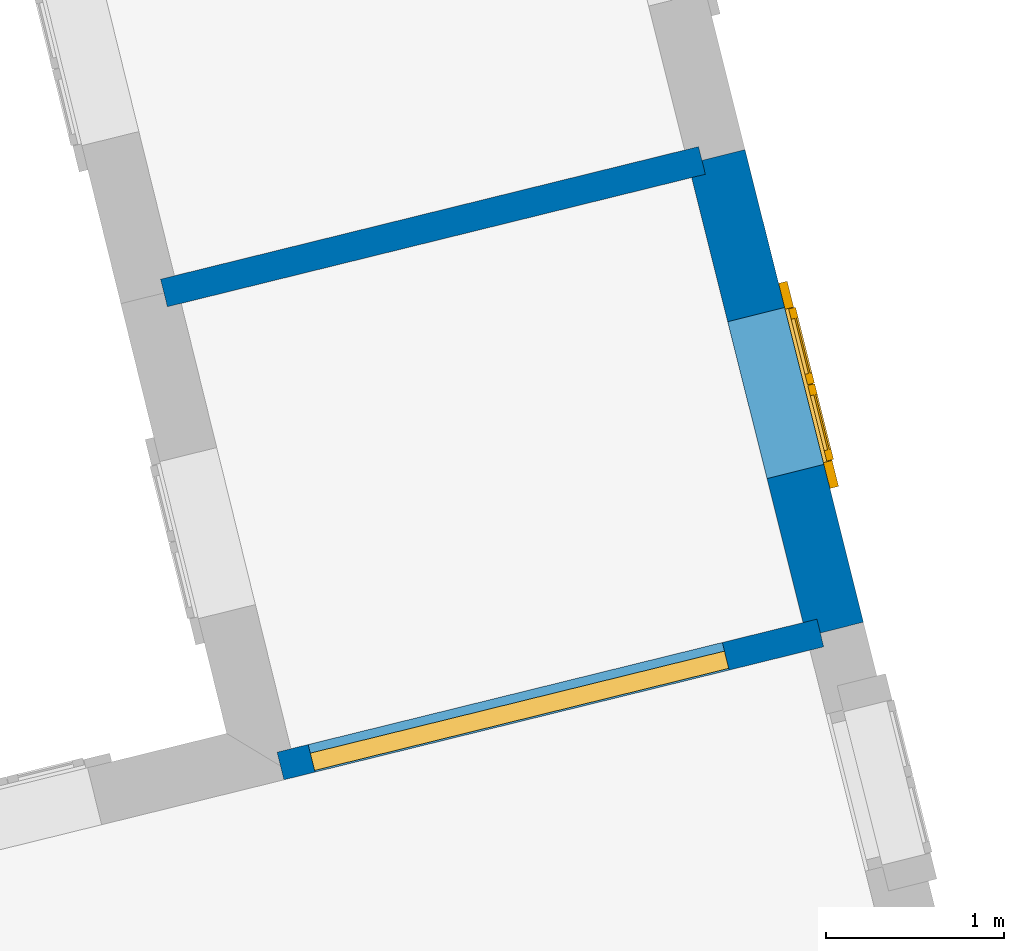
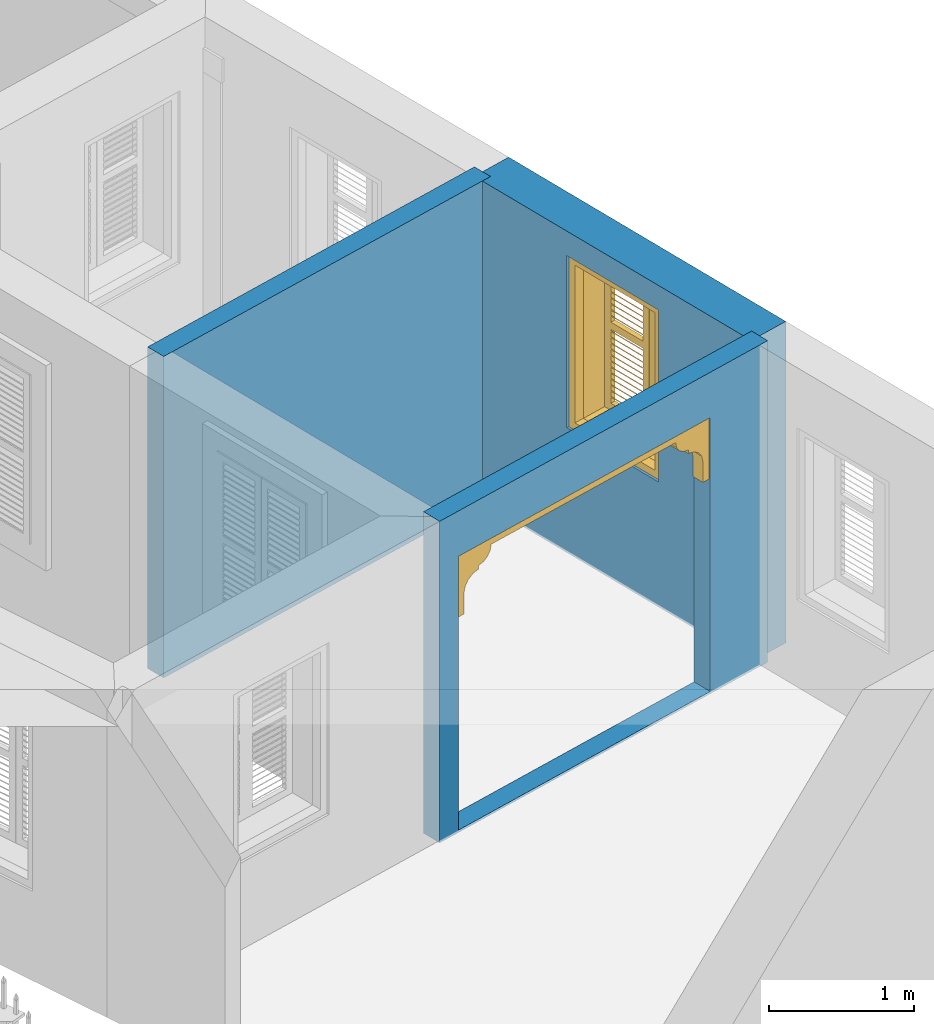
# One storey, part 4 of 8: 3 walls, 1 door, 1 window, 2 openings.
"""IFC4 building model written with IfcOpenShell, lengths in metres."""

import ifcopenshell
import ifcopenshell.guid

model = None  # the IFC model being written
_history = None  # IfcOwnerHistory: only IFC2X3 demands one
_inside = {}  # id of a spatial element -> (the spatial element, [elements in it])
_under = {}  # id of a project, library or spatial element -> (it, [spatial elements below it])
_declared = {}  # id of a project -> (the project, [libraries it declares])
_typed = {}  # id of a type object -> (the type object, [elements of that type])
_made_of = {}  # id of a material, layer set ... -> (it, [elements and type objects made of it])


def new_model(schema):
    """Start an empty IFC model of exactly this schema.

    Asked for "IFC4X3", IfcOpenShell would pick the latest addendum, in which some entities
    have other attributes; the version numbers below select the first issue.
    IFC2X3 requires an IfcOwnerHistory on every rooted entity: one is made here for all.
    """
    global model, _history
    if schema == "IFC4X3":
        model = ifcopenshell.file(schema_version=(4, 3, 0, 0))
    else:
        model = ifcopenshell.file(schema=schema)
    _inside.clear()
    _under.clear()
    _declared.clear()
    _typed.clear()
    _made_of.clear()
    _history = None
    if model.schema == "IFC2X3":
        org = make("IfcOrganization", Name="unknown")
        user = make(
            "IfcPersonAndOrganization",
            ThePerson=make("IfcPerson", FamilyName="unknown"),
            TheOrganization=org,
        )
        app = make(
            "IfcApplication",
            ApplicationDeveloper=org,
            Version="unknown",
            ApplicationFullName="unknown",
            ApplicationIdentifier="unknown",
        )
        _history = make(
            "IfcOwnerHistory",
            OwningUser=user,
            OwningApplication=app,
            ChangeAction="ADDED",
            CreationDate=0,
        )
    return model


def make(cls, **values):
    """One entity of the class cls with the attributes given. An attribute that is None is left unset."""
    return model.create_entity(
        cls, **{name: value for name, value in values.items() if value is not None}
    )


def rooted(cls, **values):
    """An entity with a GlobalId (a new one), such as an element, a storey or a relation."""
    return make(cls, GlobalId=ifcopenshell.guid.new(), OwnerHistory=_history, **values)


def si_unit(unit_type, name, prefix=None):
    """IfcSIUnit, for example si_unit("LENGTHUNIT", "METRE", prefix="MILLI")."""
    return make("IfcSIUnit", UnitType=unit_type, Prefix=prefix, Name=name)


def assignment(units):
    """IfcUnitAssignment: the units of a project."""
    return None if units is None else make("IfcUnitAssignment", Units=units)


def point(xyz):
    """IfcCartesianPoint."""
    return None if xyz is None else make("IfcCartesianPoint", Coordinates=xyz)


def direction(xyz):
    """IfcDirection."""
    return None if xyz is None else make("IfcDirection", DirectionRatios=xyz)


def frame(location, z_axis=None, x_axis=None):
    """IfcAxis2Placement3D, a coordinate frame: its origin and axes. An axis left out is left unset."""
    return make(
        "IfcAxis2Placement3D",
        Location=point(location),
        Axis=direction(z_axis),
        RefDirection=direction(x_axis),
    )


def origin():
    """The frame at (0, 0, 0) with its axes left unset."""
    return frame((0.0, 0.0, 0.0))


def origin_with_axes():
    """The frame at (0, 0, 0) with the z axis (0, 0, 1) and the x axis (1, 0, 0) written out."""
    return frame((0.0, 0.0, 0.0), z_axis=(0.0, 0.0, 1.0), x_axis=(1.0, 0.0, 0.0))


def place(relative_to, where):
    """IfcLocalPlacement: puts the frame where relative to a parent placement (None: the world)."""
    return make(
        "IfcLocalPlacement", PlacementRelTo=relative_to, RelativePlacement=where
    )


def context(
    kind, dimensions, precision=None, world=None, true_north=None, identifier=None
):
    """IfcGeometricRepresentationContext, for example the 3D "Model" context."""
    return make(
        "IfcGeometricRepresentationContext",
        ContextIdentifier=identifier,
        ContextType=kind,
        CoordinateSpaceDimension=dimensions,
        Precision=precision,
        WorldCoordinateSystem=world,
        TrueNorth=true_north,
    )


def subcontext(parent, identifier, kind, view, scale=None):
    """IfcGeometricRepresentationSubContext, for example "Body" below "Model"."""
    return make(
        "IfcGeometricRepresentationSubContext",
        ContextIdentifier=identifier,
        ContextType=kind,
        ParentContext=parent,
        TargetScale=scale,
        TargetView=view,
    )


def project(units=None, contexts=None):
    """IfcProject with its units and contexts."""
    return rooted(
        "IfcProject",
        Name="project",
        RepresentationContexts=contexts,
        UnitsInContext=assignment(units),
    )


def spatial(cls, under=None, at=None, **own):
    """A site, building, storey or space (cls), placed at a placement, below another one or the project."""
    s = rooted(cls, ObjectPlacement=at, **own)
    if under is not None:
        _under.setdefault(under.id(), (under, []))[1].append(s)
    return s


def polyline(points):
    """IfcPolyline through the points."""
    return make("IfcPolyline", Points=[point(p) for p in points])


def outline(outer, holes=None, kind="AREA"):
    """IfcArbitraryClosedProfileDef: a profile drawn as a closed curve; with holes, ...WithVoids."""
    if holes is None:
        return make("IfcArbitraryClosedProfileDef", ProfileType=kind, OuterCurve=outer)
    return make(
        "IfcArbitraryProfileDefWithVoids",
        ProfileType=kind,
        OuterCurve=outer,
        InnerCurves=holes,
    )


def extrude(swept, where, along, depth):
    """IfcExtrudedAreaSolid: the profile swept, set in the frame where, extruded along a direction by depth."""
    return make(
        "IfcExtrudedAreaSolid",
        SweptArea=swept,
        Position=where,
        ExtrudedDirection=direction(along),
        Depth=depth,
    )


def faces_of(points, faces, orient=None, outer=None):
    """IfcFace entities. A face is a list of loops; a loop is a list of indices into points, from 0.

    orient and outer hold one flag for each loop. By default every Orientation is true, the
    first loop of a face is its IfcFaceOuterBound and the others are IfcFaceBound.
    """
    made = []
    for i, loops in enumerate(faces):
        bounds = []
        for j, loop in enumerate(loops):
            is_outer = j == 0 if outer is None else outer[i][j]
            bounds.append(
                make(
                    "IfcFaceOuterBound" if is_outer else "IfcFaceBound",
                    Bound=make("IfcPolyLoop", Polygon=[points[k] for k in loop]),
                    Orientation=True if orient is None else orient[i][j],
                )
            )
        made.append(make("IfcFace", Bounds=bounds))
    return made


def faceted_brep(points, faces, orient=None, outer=None, voids=None):
    """IfcFacetedBrep: a solid bounded by flat faces; with voids (closed shells), ...WithVoids."""
    shared = [point(p) for p in points]
    hull = make("IfcClosedShell", CfsFaces=faces_of(shared, faces, orient, outer))
    if voids is None:
        return make("IfcFacetedBrep", Outer=hull)
    return make(
        "IfcFacetedBrepWithVoids",
        Outer=hull,
        Voids=[
            make(cls, CfsFaces=faces_of(shared, fs, o, b)) for cls, fs, o, b in voids
        ],
    )


def shape(context_of_items, identifier, shape_type, items):
    """IfcShapeRepresentation: the items that make up one representation, for example the "Body"."""
    return make(
        "IfcShapeRepresentation",
        ContextOfItems=context_of_items,
        RepresentationIdentifier=identifier,
        RepresentationType=shape_type,
        Items=items,
    )


def source(mapping_origin, context_of_items, identifier, shape_type, items):
    """IfcRepresentationMap: a shape defined once, which mapped items show again and again."""
    return make(
        "IfcRepresentationMap",
        MappingOrigin=mapping_origin,
        MappedRepresentation=shape(context_of_items, identifier, shape_type, items),
    )


def transform(
    local_origin,
    x_axis=None,
    y_axis=None,
    z_axis=None,
    scale=None,
    scale2=None,
    scale3=None,
    uniform=True,
):
    """IfcCartesianTransformationOperator3D, or its non-uniform kind. x_axis, y_axis, z_axis: its Axis1, 2, 3."""
    if uniform:
        return make(
            "IfcCartesianTransformationOperator3D",
            Axis1=direction(x_axis),
            Axis2=direction(y_axis),
            LocalOrigin=point(local_origin),
            Scale=scale,
            Axis3=direction(z_axis),
        )
    return make(
        "IfcCartesianTransformationOperator3DnonUniform",
        Axis1=direction(x_axis),
        Axis2=direction(y_axis),
        LocalOrigin=point(local_origin),
        Scale=scale,
        Axis3=direction(z_axis),
        Scale2=scale2,
        Scale3=scale3,
    )


def mapped(mapping_source, mapping_target):
    """IfcMappedItem: shows the shape of a source again, moved by a transform."""
    return make(
        "IfcMappedItem", MappingSource=mapping_source, MappingTarget=mapping_target
    )


def material(Name=None, Category=None):
    """IfcMaterial."""
    return make("IfcMaterial", Name=Name, Category=Category)


def layer(
    of_material, thickness, ventilated=None, Name=None, Category=None, Priority=None
):
    """IfcMaterialLayer: one layer of a wall or slab, of a material (None: an air gap)."""
    return make(
        "IfcMaterialLayer",
        Material=of_material,
        LayerThickness=thickness,
        IsVentilated=ventilated,
        Name=Name,
        Category=Category,
        Priority=Priority,
    )


def layer_set(layers, Name=None):
    """IfcMaterialLayerSet."""
    return make("IfcMaterialLayerSet", MaterialLayers=layers, LayerSetName=Name)


def layer_usage(for_layer_set, set_direction, sense, offset, extent=None):
    """IfcMaterialLayerSetUsage: how a layer set lies in its element."""
    return make(
        "IfcMaterialLayerSetUsage",
        ForLayerSet=for_layer_set,
        LayerSetDirection=set_direction,
        DirectionSense=sense,
        OffsetFromReferenceLine=offset,
        ReferenceExtent=extent,
    )


def made_of(thing, what):
    """Note that an element or type object is made of a material, layer set ...; save() writes the relation."""
    if what is not None:
        _made_of.setdefault(what.id(), (what, []))[1].append(thing)
    return thing


def type_object(cls, material=None, **own):
    """A type object (cls), such as IfcWallType, which elements share."""
    return made_of(rooted(cls, **own), material)


def type_shapes(of_type, sources):
    """Give a type object the sources (RepresentationMaps) that its elements show as mapped items."""
    of_type.RepresentationMaps = sources


def element(
    cls,
    number,
    at=None,
    inside=None,
    cuts=None,
    type_object=None,
    material=None,
    context=None,
    identifier="Body",
    shape_type=None,
    held_by="IfcProductDefinitionShape",
    body=None,
    shapes=None,
    **own,
):
    """One element of the class cls, such as IfcWall. Its Tag is "e" and its number.

    at: its placement. inside: the storey or other place that contains it. cuts: it is an
    opening in that element (IfcRelVoidsElement). A single representation is given by context,
    identifier, shape_type and body (its items); several are given by shapes. held_by: the class
    of the entity that holds the representations. save() writes the other relations.
    """
    e = rooted(cls, Tag="e%d" % number, ObjectPlacement=at, **own)
    if body is not None:
        shapes = [shape(context, identifier, shape_type, body)]
    if shapes is not None:
        e.Representation = make(held_by, Representations=shapes)
    if inside is not None:
        _inside.setdefault(inside.id(), (inside, []))[1].append(e)
    if cuts is not None:
        rooted(
            "IfcRelVoidsElement", RelatingBuildingElement=cuts, RelatedOpeningElement=e
        )
    if type_object is not None:
        _typed.setdefault(type_object.id(), (type_object, []))[1].append(e)
    return made_of(e, material)


def fill(opening, filler):
    """IfcRelFillsElement: the door or window that sits in an opening."""
    return rooted(
        "IfcRelFillsElement",
        RelatingOpeningElement=opening,
        RelatedBuildingElement=filler,
    )


def aggregate(whole, parts):
    """IfcRelAggregates: a whole, such as a stair, and the parts it consists of."""
    return rooted("IfcRelAggregates", RelatingObject=whole, RelatedObjects=parts)


def save(model, path):
    """Write the relations noted so far, then the file.

    IfcRelAggregates (storeys below a building ...), IfcRelContainedInSpatialStructure (elements
    in a storey), IfcRelDefinesByType, IfcRelAssociatesMaterial and IfcRelDeclares: one each for
    every whole, place, type object, material and project.
    """
    for whole, parts in _under.values():
        aggregate(whole, parts)
    for where, things in _inside.values():
        rooted(
            "IfcRelContainedInSpatialStructure",
            RelatedElements=things,
            RelatingStructure=where,
        )
    for kind, things in _typed.values():
        rooted("IfcRelDefinesByType", RelatedObjects=things, RelatingType=kind)
    for what, things in _made_of.values():
        rooted("IfcRelAssociatesMaterial", RelatedObjects=things, RelatingMaterial=what)
    for by, libraries in _declared.values():
        rooted("IfcRelDeclares", RelatingContext=by, RelatedDefinitions=libraries)
    model.write(path)


model = new_model("IFC4")

# Units and contexts
model_context = context("Model", 3, world=origin_with_axes())
body_context = subcontext(model_context, "Body", "Model", "MODEL_VIEW")
ifc_project = project(units=[si_unit("PLANEANGLEUNIT", "RADIAN"), si_unit("MASSUNIT", "GRAM", prefix="KILO"), si_unit("FORCEUNIT", "NEWTON", prefix="KILO"), si_unit("LENGTHUNIT", "METRE"), si_unit("AREAUNIT", "SQUARE_METRE"), si_unit("VOLUMEUNIT", "CUBIC_METRE")], contexts=[model_context, model_context])

# Site, building, storey
site_placement = place(None, origin_with_axes())
site = spatial("IfcSite", under=ifc_project, at=site_placement, Name="Site plot-1", CompositionType="ELEMENT")
building_placement = place(None, origin_with_axes())
building = spatial("IfcBuilding", under=site, at=building_placement, Name="Building plot-1", CompositionType="ELEMENT")
storey_placement = place(None, frame((0.0, 0.0, 2.7), z_axis=(0.0, 0.0, 1.0), x_axis=(1.0, 0.0, 0.0)))
storey = spatial("IfcBuildingStorey", under=building, at=storey_placement, Name="plot-1 1", CompositionType="ELEMENT", Elevation=2.7)

# Wall, opening, window
ifc_material_1 = material(Name="Masonry")
ifc_layer_1 = layer(ifc_material_1, 0.33, ventilated=False)
ifc_layer_set_1 = layer_set([ifc_layer_1], Name="exterior_0.08_0.25")
ifc_layer_usage_1 = layer_usage(ifc_layer_set_1, "AXIS2", "POSITIVE", -0.25)
wall_type_1 = type_object("IfcWallType", Name="exterior_0.08_0.25", PredefinedType="SOLIDWALL", material=ifc_layer_set_1)
wall_1_placement = place(storey_placement, frame((6.19095016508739, 19.3209104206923, 0.0), z_axis=(0.0, 0.0, 1.0), x_axis=(-0.242972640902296, 0.970033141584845, 0.0)))
wall_1 = element("IfcWall", 1, at=wall_1_placement, inside=storey, type_object=wall_type_1, material=ifc_layer_usage_1, Name="exterior", context=body_context, shape_type="SweptSolid", body=[
    extrude(outline(polyline([(1.64770702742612e-16, 0.0800000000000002), (-4.28781124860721e-16, -0.25), (2.74091515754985, -0.25), (2.74091515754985, 0.0800000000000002), (1.64770702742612e-16, 0.0800000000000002)])), origin_with_axes(), (0.0, 0.0, 1.0), 2.7),
])
opening_1_placement = place(wall_1_placement, frame((0.915457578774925, 0.0, 1.05)))
opening_1 = element("IfcOpeningElement", 2, at=opening_1_placement, cuts=wall_1, Name="My Opening", ObjectType="Opening", context=body_context, shape_type="SweptSolid", body=[
    extrude(outline(polyline([(0.0, -0.27), (0.909999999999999, -0.269999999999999), (0.910000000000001, 1.1), (2.1094237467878e-15, 1.1), (0.0, -0.27)])), origin_with_axes(), (0.0, 0.0, 1.0), 1.445),
])
window_type = type_object("IfcWindowType", Name="shuttered_shorter", PartitioningType="DOUBLE_PANEL_HORIZONTAL", PredefinedType="NOTDEFINED")
shared_shape_1 = source(origin(), body_context, "Body", "Brep", [
    faceted_brep([(0.393, 0.0, 0.622), (0.074, 0.0, 0.622), (0.074, 0.0, 0.632), (0.393, 0.0, 0.632), (0.074, -0.04, 0.592), (0.393, -0.04, 0.592), (0.393, -0.04, 0.582), (0.074, -0.04, 0.582), (0.517, 0.0, 0.682), (0.836, 0.0, 0.682), (0.836, 0.0, 0.672), (0.517, 0.0, 0.672), (0.517, -0.04, 0.642), (0.836, -0.04, 0.642), (0.836, -0.04, 0.632), (0.517, -0.04, 0.632), (0.517, 0.0, 0.632), (0.836, 0.0, 0.632), (0.836, 0.0, 0.622), (0.517, 0.0, 0.622), (0.517, -0.04, 0.592), (0.836, -0.04, 0.592), (0.836, -0.04, 0.582), (0.517, -0.04, 0.582), (0.517, 0.0, 0.232), (0.836, 0.0, 0.232), (0.836, 0.0, 0.222), (0.517, 0.0, 0.222), (0.517, -0.04, 0.192), (0.836, -0.04, 0.192), (0.836, -0.04, 0.182), (0.517, -0.04, 0.182), (0.517, 0.0, 0.532), (0.836, 0.0, 0.532), (0.836, 0.0, 0.522), (0.517, 0.0, 0.522), (0.517, -0.04, 0.492), (0.836, -0.04, 0.492), (0.836, -0.04, 0.482), (0.517, -0.04, 0.482), (0.517, 0.0, 0.482), (0.836, 0.0, 0.482), (0.836, 0.0, 0.472), (0.517, 0.0, 0.472), (0.517, -0.04, 0.442), (0.836, -0.04, 0.442), (0.836, -0.04, 0.432), (0.517, -0.04, 0.432), (0.517, 0.0, 0.582), (0.836, 0.0, 0.582), (0.836, 0.0, 0.572), (0.517, 0.0, 0.572), (0.517, -0.04, 0.542), (0.836, -0.04, 0.542), (0.836, -0.04, 0.532), (0.517, -0.04, 0.532), (0.517, 0.0, 0.182), (0.836, 0.0, 0.182), (0.836, 0.0, 0.172), (0.517, 0.0, 0.172), (0.517, -0.04, 0.142), (0.836, -0.04, 0.142), (0.836, -0.04, 0.132), (0.517, -0.04, 0.132), (0.517, 0.0, 0.382), (0.836, 0.0, 0.382), (0.836, 0.0, 0.372), (0.517, 0.0, 0.372), (0.517, -0.04, 0.342), (0.836, -0.04, 0.342), (0.836, -0.04, 0.332), (0.517, -0.04, 0.332), (0.517, 0.0, 0.432), (0.836, 0.0, 0.432), (0.836, 0.0, 0.422), (0.517, 0.0, 0.422), (0.517, -0.04, 0.392), (0.836, -0.04, 0.392), (0.836, -0.04, 0.382), (0.517, -0.04, 0.382), (0.517, 0.0, 0.132), (0.836, 0.0, 0.132), (0.836, 0.0, 0.122), (0.517, 0.0, 0.122), (0.517, -0.04, 0.092), (0.836, -0.04, 0.092), (0.836, -0.04, 0.082), (0.517, -0.04, 0.082), (0.517, 0.0, 0.282), (0.836, 0.0, 0.282), (0.836, 0.0, 0.272), (0.517, 0.0, 0.272), (0.517, -0.04, 0.242), (0.836, -0.04, 0.242), (0.836, -0.04, 0.232), (0.517, -0.04, 0.232), (0.517, 0.0, 0.332), (0.836, 0.0, 0.332), (0.836, 0.0, 0.322), (0.517, 0.0, 0.322), (0.517, -0.04, 0.292), (0.836, -0.04, 0.292), (0.836, -0.04, 0.282), (0.517, -0.04, 0.282), (0.517, 0.0, 1.362667), (0.836, 0.0, 1.362667), (0.836, 0.0, 1.352667), (0.517, 0.0, 1.352667), (0.517, -0.04, 1.322667), (0.836, -0.04, 1.322667), (0.836, -0.04, 1.312667), (0.517, -0.04, 1.312667), (0.517, 0.0, 1.312667), (0.836, 0.0, 1.312667), (0.836, 0.0, 1.302667), (0.517, 0.0, 1.302667), (0.517, -0.04, 1.272667), (0.836, -0.04, 1.272667), (0.836, -0.04, 1.262667), (0.517, -0.04, 1.262667), (0.517, 0.0, 0.912667), (0.836, 0.0, 0.912667), (0.836, 0.0, 0.902667), (0.517, 0.0, 0.902667), (0.517, -0.04, 0.872667), (0.836, -0.04, 0.872667), (0.836, -0.04, 0.862667), (0.517, -0.04, 0.862667), (0.517, 0.0, 1.212667), (0.836, 0.0, 1.212667), (0.836, 0.0, 1.202667), (0.517, 0.0, 1.202667), (0.517, -0.04, 1.172667), (0.836, -0.04, 1.172667), (0.836, -0.04, 1.162667), (0.517, -0.04, 1.162667), (0.517, 0.0, 1.162667), (0.836, 0.0, 1.162667), (0.836, 0.0, 1.152667), (0.517, 0.0, 1.152667), (0.517, -0.04, 1.122667), (0.836, -0.04, 1.122667), (0.836, -0.04, 1.112667), (0.517, -0.04, 1.112667), (0.517, 0.0, 1.262667), (0.836, 0.0, 1.262667), (0.836, 0.0, 1.252667), (0.517, 0.0, 1.252667), (0.517, -0.04, 1.222667), (0.836, -0.04, 1.222667), (0.836, -0.04, 1.212667), (0.517, -0.04, 1.212667), (0.517, 0.0, 0.862667), (0.836, 0.0, 0.862667), (0.836, 0.0, 0.852667), (0.517, 0.0, 0.852667), (0.517, -0.04, 0.822667), (0.836, -0.04, 0.822667), (0.836, -0.04, 0.812667), (0.517, -0.04, 0.812667), (0.517, 0.0, 1.062667), (0.836, 0.0, 1.062667), (0.836, 0.0, 1.052667), (0.517, 0.0, 1.052667), (0.517, -0.04, 1.022667), (0.836, -0.04, 1.022667), (0.836, -0.04, 1.012667), (0.517, -0.04, 1.012667), (0.517, 0.0, 1.112667), (0.836, 0.0, 1.112667), (0.836, 0.0, 1.102667), (0.517, 0.0, 1.102667), (0.517, -0.04, 1.072667), (0.836, -0.04, 1.072667), (0.836, -0.04, 1.062667), (0.517, -0.04, 1.062667), (0.517, 0.0, 0.812667), (0.836, 0.0, 0.812667), (0.836, 0.0, 0.802667), (0.517, 0.0, 0.802667), (0.517, -0.04, 0.772667), (0.836, -0.04, 0.772667), (0.836, -0.04, 0.762667), (0.517, -0.04, 0.762667), (0.517, 0.0, 0.962667), (0.836, 0.0, 0.962667), (0.836, 0.0, 0.952667), (0.517, 0.0, 0.952667), (0.517, -0.04, 0.922667), (0.836, -0.04, 0.922667), (0.836, -0.04, 0.912667), (0.517, -0.04, 0.912667), (0.517, 0.0, 1.012667), (0.836, 0.0, 1.012667), (0.836, 0.0, 1.002667), (0.517, 0.0, 1.002667), (0.517, -0.04, 0.972667), (0.836, -0.04, 0.972667), (0.836, -0.04, 0.962667), (0.517, -0.04, 0.962667), (0.074, 0.0, 0.682), (0.393, 0.0, 0.682), (0.393, 0.0, 0.672), (0.074, 0.0, 0.672), (0.074, -0.04, 0.642), (0.393, -0.04, 0.642), (0.393, -0.04, 0.632), (0.074, -0.04, 0.632), (0.074, 0.0, 0.232), (0.393, 0.0, 0.232), (0.393, 0.0, 0.222), (0.074, 0.0, 0.222), (0.074, -0.04, 0.192), (0.393, -0.04, 0.192), (0.393, -0.04, 0.182), (0.074, -0.04, 0.182), (0.074, 0.0, 0.532), (0.393, 0.0, 0.532), (0.393, 0.0, 0.522), (0.074, 0.0, 0.522), (0.074, -0.04, 0.492), (0.393, -0.04, 0.492), (0.393, -0.04, 0.482), (0.074, -0.04, 0.482), (0.074, 0.0, 0.482), (0.393, 0.0, 0.482), (0.393, 0.0, 0.472), (0.074, 0.0, 0.472), (0.074, -0.04, 0.442), (0.393, -0.04, 0.442), (0.393, -0.04, 0.432), (0.074, -0.04, 0.432), (0.074, 0.0, 0.582), (0.393, 0.0, 0.582), (0.393, 0.0, 0.572), (0.074, 0.0, 0.572), (0.074, -0.04, 0.542), (0.393, -0.04, 0.542), (0.393, -0.04, 0.532), (0.074, -0.04, 0.532), (0.074, 0.0, 0.182), (0.393, 0.0, 0.182), (0.393, 0.0, 0.172), (0.074, 0.0, 0.172), (0.074, -0.04, 0.142), (0.393, -0.04, 0.142), (0.393, -0.04, 0.132), (0.074, -0.04, 0.132), (0.074, 0.0, 0.382), (0.393, 0.0, 0.382), (0.393, 0.0, 0.372), (0.074, 0.0, 0.372), (0.074, -0.04, 0.342), (0.393, -0.04, 0.342), (0.393, -0.04, 0.332), (0.074, -0.04, 0.332), (0.074, 0.0, 0.432), (0.393, 0.0, 0.432), (0.393, 0.0, 0.422), (0.074, 0.0, 0.422), (0.074, -0.04, 0.392), (0.393, -0.04, 0.392), (0.393, -0.04, 0.382), (0.074, -0.04, 0.382), (0.074, 0.0, 0.132), (0.393, 0.0, 0.132), (0.393, 0.0, 0.122), (0.074, 0.0, 0.122), (0.074, -0.04, 0.092), (0.393, -0.04, 0.092), (0.393, -0.04, 0.082), (0.074, -0.04, 0.082), (0.074, 0.0, 0.282), (0.393, 0.0, 0.282), (0.393, 0.0, 0.272), (0.074, 0.0, 0.272), (0.074, -0.04, 0.242), (0.393, -0.04, 0.242), (0.393, -0.04, 0.232), (0.074, -0.04, 0.232), (0.074, 0.0, 0.332), (0.393, 0.0, 0.332), (0.393, 0.0, 0.322), (0.074, 0.0, 0.322), (0.074, -0.04, 0.292), (0.393, -0.04, 0.292), (0.393, -0.04, 0.282), (0.074, -0.04, 0.282), (0.074, 0.0, 1.362667), (0.393, 0.0, 1.362667), (0.393, 0.0, 1.352667), (0.074, 0.0, 1.352667), (0.074, -0.04, 1.322667), (0.393, -0.04, 1.322667), (0.393, -0.04, 1.312667), (0.074, -0.04, 1.312667), (0.074, 0.0, 1.312667), (0.393, 0.0, 1.312667), (0.393, 0.0, 1.302667), (0.074, 0.0, 1.302667), (0.074, -0.04, 1.272667), (0.393, -0.04, 1.272667), (0.393, -0.04, 1.262667), (0.074, -0.04, 1.262667), (0.074, 0.0, 0.912667), (0.393, 0.0, 0.912667), (0.393, 0.0, 0.902667), (0.074, 0.0, 0.902667), (0.074, -0.04, 0.872667), (0.393, -0.04, 0.872667), (0.393, -0.04, 0.862667), (0.074, -0.04, 0.862667), (0.074, 0.0, 1.212667), (0.393, 0.0, 1.212667), (0.393, 0.0, 1.202667), (0.074, 0.0, 1.202667), (0.074, -0.04, 1.172667), (0.393, -0.04, 1.172667), (0.393, -0.04, 1.162667), (0.074, -0.04, 1.162667), (0.074, 0.0, 1.162667), (0.393, 0.0, 1.162667), (0.393, 0.0, 1.152667), (0.074, 0.0, 1.152667), (0.074, -0.04, 1.122667), (0.393, -0.04, 1.122667), (0.393, -0.04, 1.112667), (0.074, -0.04, 1.112667), (0.074, 0.0, 1.262667), (0.393, 0.0, 1.262667), (0.393, 0.0, 1.252667), (0.074, 0.0, 1.252667), (0.074, -0.04, 1.222667), (0.393, -0.04, 1.222667), (0.393, -0.04, 1.212667), (0.074, -0.04, 1.212667), (0.074, 0.0, 0.862667), (0.393, 0.0, 0.862667), (0.393, 0.0, 0.852667), (0.074, 0.0, 0.852667), (0.074, -0.04, 0.822667), (0.393, -0.04, 0.822667), (0.393, -0.04, 0.812667), (0.074, -0.04, 0.812667), (0.074, 0.0, 1.062667), (0.393, 0.0, 1.062667), (0.393, 0.0, 1.052667), (0.074, 0.0, 1.052667), (0.074, -0.04, 1.022667), (0.393, -0.04, 1.022667), (0.393, -0.04, 1.012667), (0.074, -0.04, 1.012667), (0.074, 0.0, 1.112667), (0.393, 0.0, 1.112667), (0.393, 0.0, 1.102667), (0.074, 0.0, 1.102667), (0.074, -0.04, 1.072667), (0.393, -0.04, 1.072667), (0.393, -0.04, 1.062667), (0.074, -0.04, 1.062667), (0.074, 0.0, 0.812667), (0.393, 0.0, 0.812667), (0.393, 0.0, 0.802667), (0.074, 0.0, 0.802667), (0.074, -0.04, 0.772667), (0.393, -0.04, 0.772667), (0.393, -0.04, 0.762667), (0.074, -0.04, 0.762667), (0.074, 0.0, 0.962667), (0.393, 0.0, 0.962667), (0.393, 0.0, 0.952667), (0.074, 0.0, 0.952667), (0.074, -0.04, 0.922667), (0.393, -0.04, 0.922667), (0.393, -0.04, 0.912667), (0.074, -0.04, 0.912667), (0.074, 0.0, 1.012667), (0.393, 0.0, 1.012667), (0.393, 0.0, 1.002667), (0.074, 0.0, 1.002667), (0.074, -0.04, 0.972667), (0.393, -0.04, 0.972667), (0.393, -0.04, 0.962667), (0.074, -0.04, 0.962667), (0.517, -0.04, 0.072), (0.457, -0.04, 0.012), (0.896, -0.04, 0.012), (0.836, -0.04, 0.072), (0.457, -0.04, 0.692667), (0.517, -0.04, 0.692667), (0.457, 0.0, 0.012), (0.896, 0.0, 0.012), (0.836, -0.04, 0.692667), (0.896, -0.04, 0.692667), (0.836, 0.0, 0.072), (0.517, 0.0, 0.072), (0.457, 0.0, 0.692667), (0.517, 0.0, 0.692667), (0.517, -0.04, 0.752666), (0.457, -0.04, 0.752666), (0.896, 0.0, 0.692667), (0.836, 0.0, 0.692667), (0.836, -0.04, 0.752666), (0.896, -0.04, 0.752666), (0.457, 0.0, 0.752666), (0.457, -0.04, 1.433333), (0.517, -0.04, 1.373333), (0.896, 0.0, 0.752666), (0.836, -0.04, 1.373333), (0.896, -0.04, 1.433333), (0.457, 0.0, 1.433333), (0.517, 0.0, 0.752666), (0.836, 0.0, 0.752666), (0.517, 0.0, 1.373333), (0.896, 0.0, 1.433333), (0.836, 0.0, 1.373333), (0.074, -0.04, 0.072), (0.014, -0.04, 0.012), (0.453, -0.04, 0.012), (0.393, -0.04, 0.072), (0.014, -0.04, 0.692667), (0.074, -0.04, 0.692667), (0.014, 0.0, 0.012), (0.453, 0.0, 0.012), (0.393, -0.04, 0.692667), (0.453, -0.04, 0.692667), (0.393, 0.0, 0.072), (0.074, 0.0, 0.072), (0.014, 0.0, 0.692667), (0.074, 0.0, 0.692667), (0.074, -0.04, 0.752666), (0.014, -0.04, 0.752666), (0.453, 0.0, 0.692667), (0.393, 0.0, 0.692667), (0.393, -0.04, 0.752666), (0.453, -0.04, 0.752666), (0.014, 0.0, 0.752666), (0.014, -0.04, 1.433333), (0.074, -0.04, 1.373333), (0.453, 0.0, 0.752666), (0.393, -0.04, 1.373333), (0.453, -0.04, 1.433333), (0.014, 0.0, 1.433333), (0.074, 0.0, 0.752666), (0.393, 0.0, 0.752666), (0.074, 0.0, 1.373333), (0.453, 0.0, 1.433333), (0.393, 0.0, 1.373333), (0.0, 0.33, 1.445), (0.91, 0.33, 1.445), (0.85, 0.33, 1.385), (0.06, 0.33, 1.385), (0.91, 0.25, 1.445), (0.0, 0.25, 1.445), (0.91, 0.25, 1.445), (0.85, 0.33, 0.06), (0.91, 0.33, 0.0), (0.85, 0.25, 1.385), (0.06, 0.25, 1.385), (0.0, 0.33, 0.0), (0.06, 0.33, 0.06), (0.0, 0.25, 0.0), (0.91, 0.25, 0.0), (0.85, 0.25, 0.06), (0.06, 0.25, 0.06), (1.05, 0.25, 1.585), (-0.14, 0.25, 1.585), (-0.14, -0.03, 1.585), (1.05, -0.03, 1.585), (0.9, -0.03, 1.435), (0.01, -0.03, 1.435), (0.01, 0.25, 1.435), (0.9, 0.25, 1.435), (0.9, 0.25, 0.01), (0.9, -0.03, 0.01), (1.05, -0.03, -0.14), (1.05, 0.25, -0.14), (0.01, -0.03, 0.01), (0.01, 0.25, 0.01), (-0.14, -0.03, -0.14), (-0.14, 0.25, -0.14)], [[[0, 1, 2, 3]], [[4, 5, 3, 2]], [[5, 6, 0, 3]], [[1, 0, 6, 7]], [[2, 1, 7, 4]], [[5, 4, 7, 6]], [[8, 9, 10, 11]], [[12, 13, 9, 8]], [[13, 14, 10, 9]], [[14, 15, 11, 10]], [[15, 12, 8, 11]], [[13, 12, 15, 14]], [[16, 17, 18, 19]], [[20, 21, 17, 16]], [[21, 22, 18, 17]], [[22, 23, 19, 18]], [[23, 20, 16, 19]], [[21, 20, 23, 22]], [[24, 25, 26, 27]], [[28, 29, 25, 24]], [[29, 30, 26, 25]], [[30, 31, 27, 26]], [[31, 28, 24, 27]], [[29, 28, 31, 30]], [[32, 33, 34, 35]], [[36, 37, 33, 32]], [[37, 38, 34, 33]], [[38, 39, 35, 34]], [[39, 36, 32, 35]], [[37, 36, 39, 38]], [[40, 41, 42, 43]], [[44, 45, 41, 40]], [[45, 46, 42, 41]], [[46, 47, 43, 42]], [[47, 44, 40, 43]], [[45, 44, 47, 46]], [[48, 49, 50, 51]], [[52, 53, 49, 48]], [[53, 54, 50, 49]], [[54, 55, 51, 50]], [[55, 52, 48, 51]], [[53, 52, 55, 54]], [[56, 57, 58, 59]], [[60, 61, 57, 56]], [[61, 62, 58, 57]], [[62, 63, 59, 58]], [[63, 60, 56, 59]], [[61, 60, 63, 62]], [[64, 65, 66, 67]], [[68, 69, 65, 64]], [[69, 70, 66, 65]], [[70, 71, 67, 66]], [[71, 68, 64, 67]], [[69, 68, 71, 70]], [[72, 73, 74, 75]], [[76, 77, 73, 72]], [[77, 78, 74, 73]], [[78, 79, 75, 74]], [[79, 76, 72, 75]], [[77, 76, 79, 78]], [[80, 81, 82, 83]], [[84, 85, 81, 80]], [[85, 86, 82, 81]], [[86, 87, 83, 82]], [[87, 84, 80, 83]], [[85, 84, 87, 86]], [[88, 89, 90, 91]], [[92, 93, 89, 88]], [[93, 94, 90, 89]], [[94, 95, 91, 90]], [[95, 92, 88, 91]], [[93, 92, 95, 94]], [[96, 97, 98, 99]], [[100, 101, 97, 96]], [[101, 102, 98, 97]], [[102, 103, 99, 98]], [[103, 100, 96, 99]], [[101, 100, 103, 102]], [[104, 105, 106, 107]], [[108, 109, 105, 104]], [[109, 110, 106, 105]], [[110, 111, 107, 106]], [[111, 108, 104, 107]], [[109, 108, 111, 110]], [[112, 113, 114, 115]], [[116, 117, 113, 112]], [[117, 118, 114, 113]], [[118, 119, 115, 114]], [[119, 116, 112, 115]], [[117, 116, 119, 118]], [[120, 121, 122, 123]], [[124, 125, 121, 120]], [[125, 126, 122, 121]], [[126, 127, 123, 122]], [[127, 124, 120, 123]], [[125, 124, 127, 126]], [[128, 129, 130, 131]], [[132, 133, 129, 128]], [[133, 134, 130, 129]], [[134, 135, 131, 130]], [[135, 132, 128, 131]], [[133, 132, 135, 134]], [[136, 137, 138, 139]], [[140, 141, 137, 136]], [[141, 142, 138, 137]], [[142, 143, 139, 138]], [[139, 143, 140, 136]], [[141, 140, 143, 142]], [[144, 145, 146, 147]], [[148, 149, 145, 144]], [[149, 150, 146, 145]], [[150, 151, 147, 146]], [[151, 148, 144, 147]], [[149, 148, 151, 150]], [[152, 153, 154, 155]], [[156, 157, 153, 152]], [[157, 158, 154, 153]], [[158, 159, 155, 154]], [[159, 156, 152, 155]], [[157, 156, 159, 158]], [[160, 161, 162, 163]], [[164, 165, 161, 160]], [[165, 166, 162, 161]], [[166, 167, 163, 162]], [[167, 164, 160, 163]], [[165, 164, 167, 166]], [[168, 169, 170, 171]], [[172, 173, 169, 168]], [[173, 174, 170, 169]], [[174, 175, 171, 170]], [[175, 172, 168, 171]], [[173, 172, 175, 174]], [[176, 177, 178, 179]], [[180, 181, 177, 176]], [[181, 182, 178, 177]], [[182, 183, 179, 178]], [[183, 180, 176, 179]], [[181, 180, 183, 182]], [[184, 185, 186, 187]], [[188, 189, 185, 184]], [[189, 190, 186, 185]], [[190, 191, 187, 186]], [[191, 188, 184, 187]], [[189, 188, 191, 190]], [[192, 193, 194, 195]], [[196, 197, 193, 192]], [[197, 198, 194, 193]], [[198, 199, 195, 194]], [[199, 196, 192, 195]], [[197, 196, 199, 198]], [[200, 201, 202, 203]], [[204, 205, 201, 200]], [[205, 206, 202, 201]], [[206, 207, 203, 202]], [[207, 204, 200, 203]], [[205, 204, 207, 206]], [[208, 209, 210, 211]], [[212, 213, 209, 208]], [[213, 214, 210, 209]], [[214, 215, 211, 210]], [[215, 212, 208, 211]], [[213, 212, 215, 214]], [[216, 217, 218, 219]], [[220, 221, 217, 216]], [[221, 222, 218, 217]], [[222, 223, 219, 218]], [[223, 220, 216, 219]], [[221, 220, 223, 222]], [[224, 225, 226, 227]], [[228, 229, 225, 224]], [[229, 230, 226, 225]], [[230, 231, 227, 226]], [[231, 228, 224, 227]], [[229, 228, 231, 230]], [[232, 233, 234, 235]], [[236, 237, 233, 232]], [[237, 238, 234, 233]], [[238, 239, 235, 234]], [[239, 236, 232, 235]], [[237, 236, 239, 238]], [[240, 241, 242, 243]], [[244, 245, 241, 240]], [[245, 246, 242, 241]], [[246, 247, 243, 242]], [[247, 244, 240, 243]], [[245, 244, 247, 246]], [[248, 249, 250, 251]], [[252, 253, 249, 248]], [[253, 254, 250, 249]], [[254, 255, 251, 250]], [[255, 252, 248, 251]], [[253, 252, 255, 254]], [[256, 257, 258, 259]], [[260, 261, 257, 256]], [[261, 262, 258, 257]], [[262, 263, 259, 258]], [[263, 260, 256, 259]], [[261, 260, 263, 262]], [[264, 265, 266, 267]], [[268, 269, 265, 264]], [[269, 270, 266, 265]], [[270, 271, 267, 266]], [[271, 268, 264, 267]], [[269, 268, 271, 270]], [[272, 273, 274, 275]], [[276, 277, 273, 272]], [[277, 278, 274, 273]], [[278, 279, 275, 274]], [[279, 276, 272, 275]], [[277, 276, 279, 278]], [[280, 281, 282, 283]], [[284, 285, 281, 280]], [[285, 286, 282, 281]], [[286, 287, 283, 282]], [[287, 284, 280, 283]], [[285, 284, 287, 286]], [[288, 289, 290, 291]], [[292, 293, 289, 288]], [[293, 294, 290, 289]], [[294, 295, 291, 290]], [[295, 292, 288, 291]], [[293, 292, 295, 294]], [[296, 297, 298, 299]], [[300, 301, 297, 296]], [[301, 302, 298, 297]], [[302, 303, 299, 298]], [[303, 300, 296, 299]], [[301, 300, 303, 302]], [[304, 305, 306, 307]], [[308, 309, 305, 304]], [[309, 310, 306, 305]], [[310, 311, 307, 306]], [[311, 308, 304, 307]], [[309, 308, 311, 310]], [[312, 313, 314, 315]], [[316, 317, 313, 312]], [[317, 318, 314, 313]], [[318, 319, 315, 314]], [[319, 316, 312, 315]], [[317, 316, 319, 318]], [[320, 321, 322, 323]], [[324, 325, 321, 320]], [[325, 326, 322, 321]], [[326, 327, 323, 322]], [[327, 324, 320, 323]], [[325, 324, 327, 326]], [[328, 329, 330, 331]], [[332, 333, 329, 328]], [[333, 334, 330, 329]], [[334, 335, 331, 330]], [[335, 332, 328, 331]], [[333, 332, 335, 334]], [[336, 337, 338, 339]], [[340, 341, 337, 336]], [[341, 342, 338, 337]], [[342, 343, 339, 338]], [[343, 340, 336, 339]], [[341, 340, 343, 342]], [[344, 345, 346, 347]], [[348, 349, 345, 344]], [[349, 350, 346, 345]], [[350, 351, 347, 346]], [[351, 348, 344, 347]], [[349, 348, 351, 350]], [[352, 353, 354, 355]], [[356, 357, 353, 352]], [[357, 358, 354, 353]], [[358, 359, 355, 354]], [[359, 356, 352, 355]], [[357, 356, 359, 358]], [[360, 361, 362, 363]], [[364, 365, 361, 360]], [[365, 366, 362, 361]], [[366, 367, 363, 362]], [[367, 364, 360, 363]], [[365, 364, 367, 366]], [[368, 369, 370, 371]], [[372, 373, 369, 368]], [[373, 374, 370, 369]], [[374, 375, 371, 370]], [[375, 372, 368, 371]], [[373, 372, 375, 374]], [[376, 377, 378, 379]], [[380, 381, 377, 376]], [[381, 382, 378, 377]], [[382, 383, 379, 378]], [[383, 380, 376, 379]], [[381, 380, 383, 382]], [[384, 385, 386, 387]], [[388, 385, 384, 389]], [[390, 391, 386, 385]], [[392, 387, 386, 393]], [[384, 387, 394, 395]], [[390, 385, 388, 396]], [[389, 384, 395, 397]], [[389, 398, 399, 388]], [[390, 395, 394, 391]], [[400, 393, 386, 391]], [[387, 392, 401, 394]], [[402, 392, 393, 403]], [[396, 388, 399, 404]], [[390, 396, 397, 395]], [[392, 389, 397, 401]], [[398, 389, 392, 402]], [[405, 399, 398, 406]], [[394, 401, 400, 391]], [[407, 403, 393, 400]], [[408, 402, 403, 409]], [[404, 399, 405, 410]], [[411, 397, 396, 404]], [[397, 411, 412, 401]], [[398, 402, 412, 411]], [[406, 398, 411, 413]], [[405, 406, 408, 409]], [[401, 412, 407, 400]], [[414, 409, 403, 407]], [[402, 408, 415, 412]], [[405, 409, 414, 410]], [[404, 410, 413, 411]], [[408, 406, 413, 415]], [[412, 415, 414, 407]], [[413, 410, 414, 415]], [[416, 417, 418, 419]], [[420, 417, 416, 421]], [[422, 423, 418, 417]], [[424, 419, 418, 425]], [[416, 419, 426, 427]], [[422, 417, 420, 428]], [[421, 416, 427, 429]], [[421, 430, 431, 420]], [[422, 427, 426, 423]], [[432, 425, 418, 423]], [[419, 424, 433, 426]], [[434, 424, 425, 435]], [[428, 420, 431, 436]], [[422, 428, 429, 427]], [[424, 421, 429, 433]], [[430, 421, 424, 434]], [[437, 431, 430, 438]], [[426, 433, 432, 423]], [[439, 435, 425, 432]], [[440, 434, 435, 441]], [[436, 431, 437, 442]], [[443, 429, 428, 436]], [[429, 443, 444, 433]], [[430, 434, 444, 443]], [[438, 430, 443, 445]], [[437, 438, 440, 441]], [[433, 444, 439, 432]], [[446, 441, 435, 439]], [[434, 440, 447, 444]], [[437, 441, 446, 442]], [[436, 442, 445, 443]], [[440, 438, 445, 447]], [[444, 447, 446, 439]], [[445, 442, 446, 447]], [[448, 449, 450, 451]], [[452, 449, 448]], [[448, 453, 454]], [[448, 454, 452]], [[455, 450, 449, 456]], [[451, 450, 457, 458]], [[459, 448, 451, 460]], [[448, 459, 461, 453]], [[454, 453, 458, 457]], [[462, 452, 454]], [[454, 457, 463]], [[454, 463, 462]], [[456, 449, 452, 462]], [[450, 455, 463, 457]], [[456, 459, 460, 455]], [[460, 451, 458, 464]], [[459, 456, 462, 461]], [[464, 458, 453, 461]], [[461, 462, 463, 464]], [[455, 460, 464, 463]], [[465, 466, 467, 468]], [[469, 470, 471, 472]], [[473, 474, 469, 472]], [[465, 468, 475, 476]], [[470, 477, 478, 471]], [[474, 473, 478, 477]], [[474, 477, 479, 475]], [[470, 467, 479, 477]], [[470, 469, 468, 467]], [[474, 475, 468, 469]], [[471, 478, 480, 466]], [[473, 472, 465, 476]], [[473, 476, 480, 478]], [[466, 465, 472, 471]], [[480, 476, 475, 479]], [[480, 479, 467, 466]]]),
])
type_shapes(window_type, [shared_shape_1])
window_placement = place(storey_placement, frame((6.23042796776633, 20.2745372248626, 1.05), z_axis=(0.0, 0.0, 1.0), x_axis=(-0.22110510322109, 0.882730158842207, 0.0)))
window = element("IfcWindow", 3, at=window_placement, inside=storey, type_object=window_type, Name="kitchen outside window", OverallHeight=1.445, OverallWidth=0.91, context=body_context, shape_type="MappedRepresentation", body=[
    mapped(shared_shape_1, transform((0.0, 0.0, 0.0), scale=1.0)),
])
fill(opening_1, window)

# Wall
ifc_material_2 = material(Name="Masonry")
ifc_layer_2 = layer(ifc_material_2, 0.16, ventilated=False)
ifc_layer_set_2 = layer_set([ifc_layer_2], Name="interior_0.08_0.08")
ifc_layer_usage_2 = layer_usage(ifc_layer_set_2, "AXIS2", "POSITIVE", -0.08)
wall_type_2 = type_object("IfcWallType", Name="interior_0.08_0.08", PredefinedType="SOLIDWALL", material=ifc_layer_set_2)
wall_2_placement = place(storey_placement, frame((5.52498277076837, 21.9796889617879, 0.0), z_axis=(0.0, 0.0, 1.0), x_axis=(-0.970961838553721, -0.239234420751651, 0.0)))
element("IfcWall", 4, at=wall_2_placement, inside=storey, type_object=wall_type_2, material=ifc_layer_usage_2, Name="interior", context=body_context, shape_type="SweptSolid", body=[
    extrude(outline(polyline([(5.63585119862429e-17, 0.0800000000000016), (-6.6155686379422e-17, -0.0800000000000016), (3.11746676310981, -0.0800000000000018), (3.11746676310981, 0.0800000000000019), (5.63585119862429e-17, 0.0800000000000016)])), origin_with_axes(), (0.0, 0.0, 1.0), 2.7),
])

# Wall, opening, door
wall_3_placement = place(storey_placement, frame((3.15375789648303, 18.5725793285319, 0.0), z_axis=(0.0, 0.0, 1.0), x_axis=(0.97096183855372, 0.239234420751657, 0.0)))
wall_3 = element("IfcWall", 5, at=wall_3_placement, inside=storey, type_object=wall_type_2, material=ifc_layer_usage_2, Name="interior", context=body_context, shape_type="SweptSolid", body=[
    extrude(outline(polyline([(5.37805639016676e-16, 0.0800000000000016), (-5.28008464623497e-16, -0.0800000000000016), (3.12802434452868, -0.0800000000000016), (3.12802434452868, 0.0800000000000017), (5.37805639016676e-16, 0.0800000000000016)])), origin_with_axes(), (0.0, 0.0, 1.0), 2.7),
])
opening_2_placement = place(wall_3_placement, frame((0.18, 0.0, 0.02)))
opening_2 = element("IfcOpeningElement", 6, at=opening_2_placement, cuts=wall_3, Name="My Opening", ObjectType="Opening", context=body_context, shape_type="SweptSolid", body=[
    extrude(outline(polyline([(0.0, -0.0999999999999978), (2.4, -0.0999999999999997), (2.4, 1.1), (-4.71844785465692e-16, 1.1), (0.0, -0.0999999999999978)])), origin_with_axes(), (0.0, 0.0, 1.0), 2.3),
])
door_type = type_object("IfcDoorType", Name="arch-2400x2300-thin", OperationType="SINGLE_SWING_LEFT", PredefinedType="NOTDEFINED")
shared_shape_2 = source(origin(), body_context, "Body", "Brep", [
    faceted_brep([(2.4, 0.03, 1.78), (2.4, 0.03, 1.95), (2.34, 0.03, 1.95), (2.34, 0.03, 1.78), (2.34, 0.13, 1.95), (2.34, 0.13, 1.78), (2.4, 0.03, 2.12), (2.329, 0.03, 2.004), (2.4, 0.13, 1.78), (2.4, 0.13, 1.95), (2.329, 0.13, 2.004), (2.299, 0.03, 2.049), (2.4, 0.13, 2.12), (2.299, 0.13, 2.049), (2.254, 0.03, 2.079), (2.4, 0.13, 2.29), (2.4, 0.03, 2.29), (2.254, 0.13, 2.079), (2.2, 0.03, 2.09), (2.2, 0.03, 2.12), (2.154, 0.03, 2.129), (2.08, 0.13, 2.29), (2.08, 0.03, 2.29), (2.2, 0.13, 2.12), (2.154, 0.13, 2.129), (2.2, 0.13, 2.09), (2.115, 0.03, 2.155), (2.089, 0.13, 2.194), (2.08, 0.13, 2.24), (2.08, 0.03, 2.24), (2.089, 0.03, 2.194), (2.115, 0.13, 2.155), (0.06, 0.03, 1.78), (0.06, 0.03, 1.95), (0.0, 0.03, 1.95), (0.0, 0.03, 1.78), (0.06, 0.13, 1.78), (0.06, 0.13, 1.95), (0.071, 0.03, 2.004), (0.0, 0.03, 2.12), (0.0, 0.13, 1.95), (0.0, 0.13, 1.78), (0.071, 0.13, 2.004), (0.101, 0.03, 2.049), (0.0, 0.13, 2.12), (0.101, 0.13, 2.049), (0.146, 0.03, 2.079), (0.0, 0.03, 2.29), (0.0, 0.13, 2.29), (0.146, 0.13, 2.079), (0.2, 0.03, 2.12), (0.2, 0.03, 2.09), (0.246, 0.03, 2.129), (0.32, 0.03, 2.29), (0.32, 0.13, 2.29), (0.246, 0.13, 2.129), (0.2, 0.13, 2.12), (0.2, 0.13, 2.09), (0.285, 0.03, 2.155), (0.32, 0.13, 2.24), (0.311, 0.13, 2.194), (0.311, 0.03, 2.194), (0.32, 0.03, 2.24), (0.285, 0.13, 2.155)], [[[0, 1, 2, 3]], [[4, 5, 3, 2]], [[1, 6, 7, 2]], [[1, 0, 8, 9]], [[5, 8, 0, 3]], [[5, 4, 9, 8]], [[10, 4, 2, 7]], [[6, 11, 7]], [[6, 1, 9, 12]], [[4, 10, 12, 9]], [[13, 10, 7, 11]], [[6, 14, 11]], [[12, 15, 16, 6]], [[12, 10, 13]], [[17, 13, 11, 14]], [[18, 14, 6, 19]], [[6, 16, 20, 19]], [[16, 15, 21, 22]], [[23, 24, 15, 12]], [[12, 13, 17]], [[25, 17, 14, 18]], [[23, 25, 18, 19]], [[24, 23, 19, 20]], [[16, 26, 20]], [[15, 27, 28, 21]], [[16, 22, 29, 30]], [[31, 15, 24]], [[23, 12, 17, 25]], [[31, 24, 20, 26]], [[16, 30, 26]], [[28, 27, 30, 29]], [[27, 15, 31]], [[27, 31, 26, 30]], [[32, 33, 34, 35]], [[33, 32, 36, 37]], [[33, 38, 39, 34]], [[35, 34, 40, 41]], [[32, 35, 41, 36]], [[41, 40, 37, 36]], [[38, 33, 37, 42]], [[38, 43, 39]], [[44, 40, 34, 39]], [[40, 44, 42, 37]], [[43, 38, 42, 45]], [[43, 46, 39]], [[39, 47, 48, 44]], [[45, 42, 44]], [[46, 43, 45, 49]], [[50, 39, 46, 51]], [[50, 52, 47, 39]], [[53, 54, 48, 47]], [[44, 48, 55, 56]], [[49, 45, 44]], [[51, 46, 49, 57]], [[50, 51, 57, 56]], [[52, 50, 56, 55]], [[52, 58, 47]], [[54, 59, 60, 48]], [[61, 62, 53, 47]], [[55, 48, 63]], [[57, 49, 44, 56]], [[58, 52, 55, 63]], [[58, 61, 47]], [[62, 61, 60, 59]], [[63, 48, 60]], [[61, 58, 63, 60]], [[62, 59, 28, 29]], [[59, 54, 21, 28]], [[53, 62, 29, 22]], [[54, 53, 22, 21]]]),
])
type_shapes(door_type, [shared_shape_2])
door_placement = place(storey_placement, frame((3.35245446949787, 18.5185453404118, 0.02), z_axis=(0.0, 0.0, 1.0), x_axis=(2.33030841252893, 0.574162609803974, 0.0)))
door = element("IfcDoor", 7, at=door_placement, inside=storey, type_object=door_type, Name="kitchen living inside door", OverallHeight=2.3, OverallWidth=2.4, context=body_context, shape_type="MappedRepresentation", body=[
    mapped(shared_shape_2, transform((0.0, 0.0, 0.0), scale=1.0)),
])
fill(opening_2, door)

save(model, "model.ifc")
